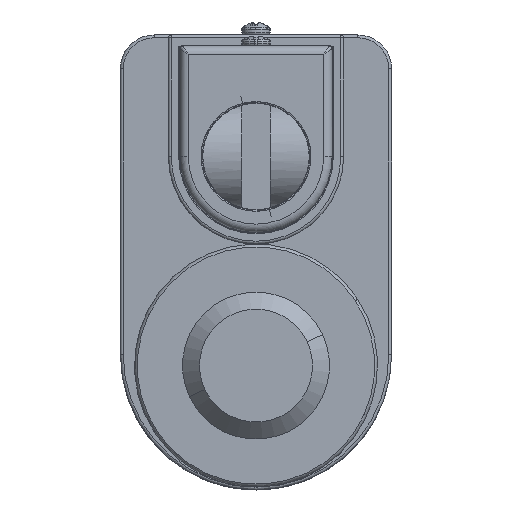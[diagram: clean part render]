
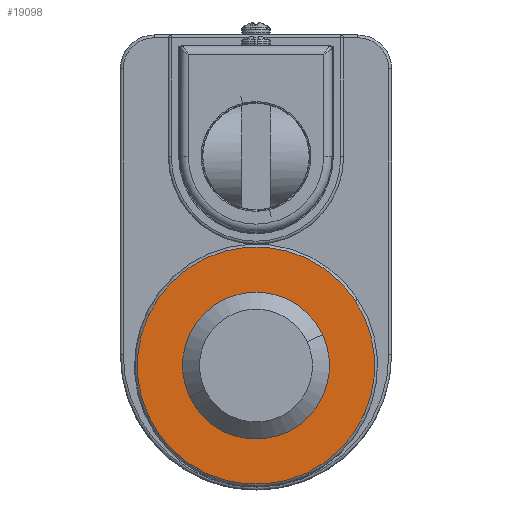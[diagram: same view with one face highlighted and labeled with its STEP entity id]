
A CAD part, left-side view. The second image highlights one B-rep face of the part: STEP entity #19098.
In plain terms, the highlighted planar face has unit normal (-1, 0, 0).
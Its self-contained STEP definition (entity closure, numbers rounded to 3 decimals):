
#12310 = CARTESIAN_POINT ( 'NONE',  ( -82., -11.782, -31.506 ) ) ;
#12370 = CARTESIAN_POINT ( 'NONE',  ( -82., -19.032, -28.125 ) ) ;
#12371 = DIRECTION ( 'NONE',  ( 0., 0.906, -0.423 ) ) ;
#12372 = DIRECTION ( 'NONE',  ( 1., 0., 0. ) ) ;
#12373 = AXIS2_PLACEMENT_3D ( 'NONE', #12378, #12372, #12371 ) ;
#12374 = CIRCLE ( 'NONE', #12373, 21. ) ;
#12378 = CARTESIAN_POINT ( 'NONE',  ( -82., 0., -37. ) ) ;
#12820 = DIRECTION ( 'NONE',  ( 0., 0.906, -0.423 ) ) ;
#12821 = DIRECTION ( 'NONE',  ( 1., 0., 0. ) ) ;
#12822 = CARTESIAN_POINT ( 'NONE',  ( -82., 0., -37. ) ) ;
#12823 = AXIS2_PLACEMENT_3D ( 'NONE', #12822, #12821, #12820 ) ;
#12828 = CIRCLE ( 'NONE', #12823, 21. ) ;
#12987 = CARTESIAN_POINT ( 'NONE',  ( -82., 19.032, -45.875 ) ) ;
#12995 = CARTESIAN_POINT ( 'NONE',  ( -82., 11.782, -42.494 ) ) ;
#12996 = DIRECTION ( 'NONE',  ( 0., 0.906, -0.423 ) ) ;
#12997 = DIRECTION ( 'NONE',  ( 1., 0., 0. ) ) ;
#12998 = CARTESIAN_POINT ( 'NONE',  ( -82., 0., -37. ) ) ;
#12999 = AXIS2_PLACEMENT_3D ( 'NONE', #12998, #12997, #12996 ) ;
#13000 = CIRCLE ( 'NONE', #12999, 13. ) ;
#13190 = CARTESIAN_POINT ( 'NONE',  ( -82., 0., -37. ) ) ;
#13191 = AXIS2_PLACEMENT_3D ( 'NONE', #13190, #13428, #13427 ) ;
#13192 = FACE_OUTER_BOUND ( 'NONE', #19180, .T. ) ;
#13193 = FACE_BOUND ( 'NONE', #19177, .T. ) ;
#13194 = DIRECTION ( 'NONE',  ( 0., 0.906, -0.423 ) ) ;
#13195 = DIRECTION ( 'NONE',  ( 1., 0., 0. ) ) ;
#13196 = CARTESIAN_POINT ( 'NONE',  ( -82., 0., -37. ) ) ;
#13197 = AXIS2_PLACEMENT_3D ( 'NONE', #13196, #13195, #13194 ) ;
#13198 = CIRCLE ( 'NONE', #13197, 13. ) ;
#13199 = PLANE ( 'NONE',  #13191 ) ;
#13427 = DIRECTION ( 'NONE',  ( 0., 0.906, -0.423 ) ) ;
#13428 = DIRECTION ( 'NONE',  ( 1., 0., 0. ) ) ;
#18639 = VERTEX_POINT ( 'NONE', #12310 ) ;
#18737 = EDGE_CURVE ( 'NONE', #18947, #18738, #12374, .T. ) ;
#18738 = VERTEX_POINT ( 'NONE', #12370 ) ;
#18924 = EDGE_CURVE ( 'NONE', #18738, #18947, #12828, .T. ) ;
#18936 = ORIENTED_EDGE ( 'NONE', *, *, #18737, .F. ) ;
#18947 = VERTEX_POINT ( 'NONE', #12987 ) ;
#19014 = EDGE_CURVE ( 'NONE', #19015, #18639, #13000, .T. ) ;
#19015 = VERTEX_POINT ( 'NONE', #12995 ) ;
#19097 = EDGE_CURVE ( 'NONE', #18639, #19015, #13198, .T. ) ;
#19098 = ADVANCED_FACE ( 'NONE', ( #13193, #13192 ), #13199, .F. ) ;
#19177 = EDGE_LOOP ( 'NONE', ( #19178, #19179 ) ) ;
#19178 = ORIENTED_EDGE ( 'NONE', *, *, #19014, .T. ) ;
#19179 = ORIENTED_EDGE ( 'NONE', *, *, #19097, .T. ) ;
#19180 = EDGE_LOOP ( 'NONE', ( #19181, #18936 ) ) ;
#19181 = ORIENTED_EDGE ( 'NONE', *, *, #18924, .F. ) ;
